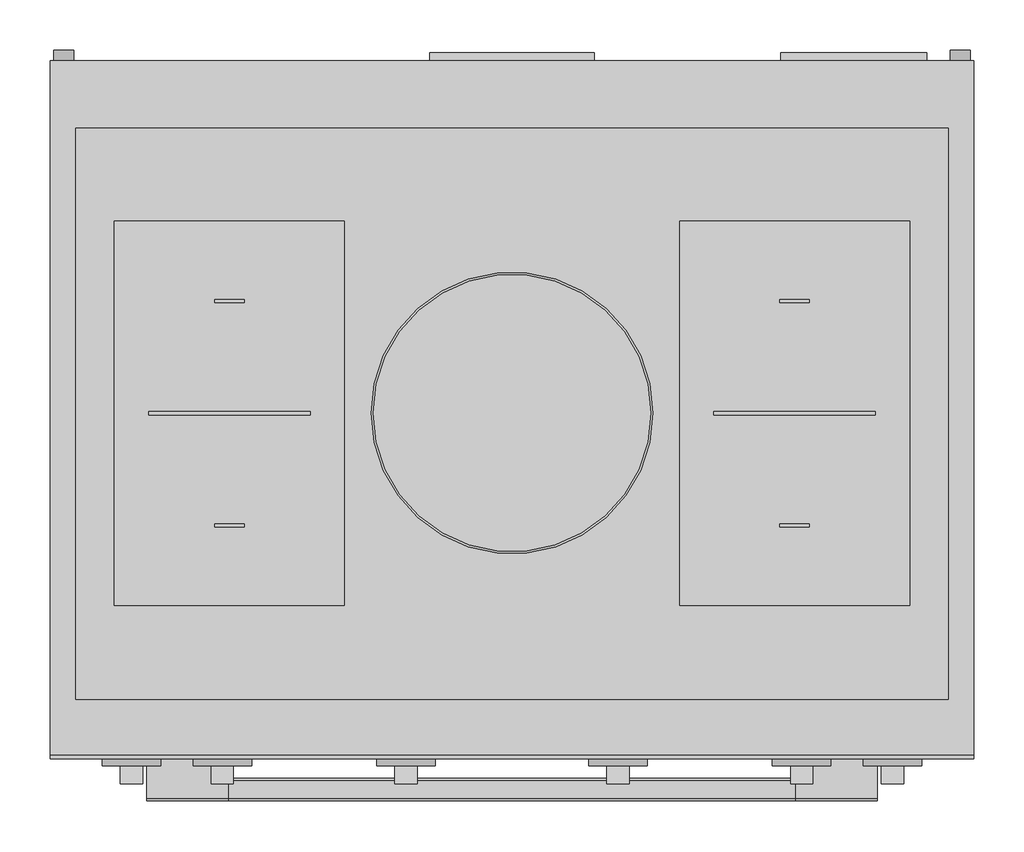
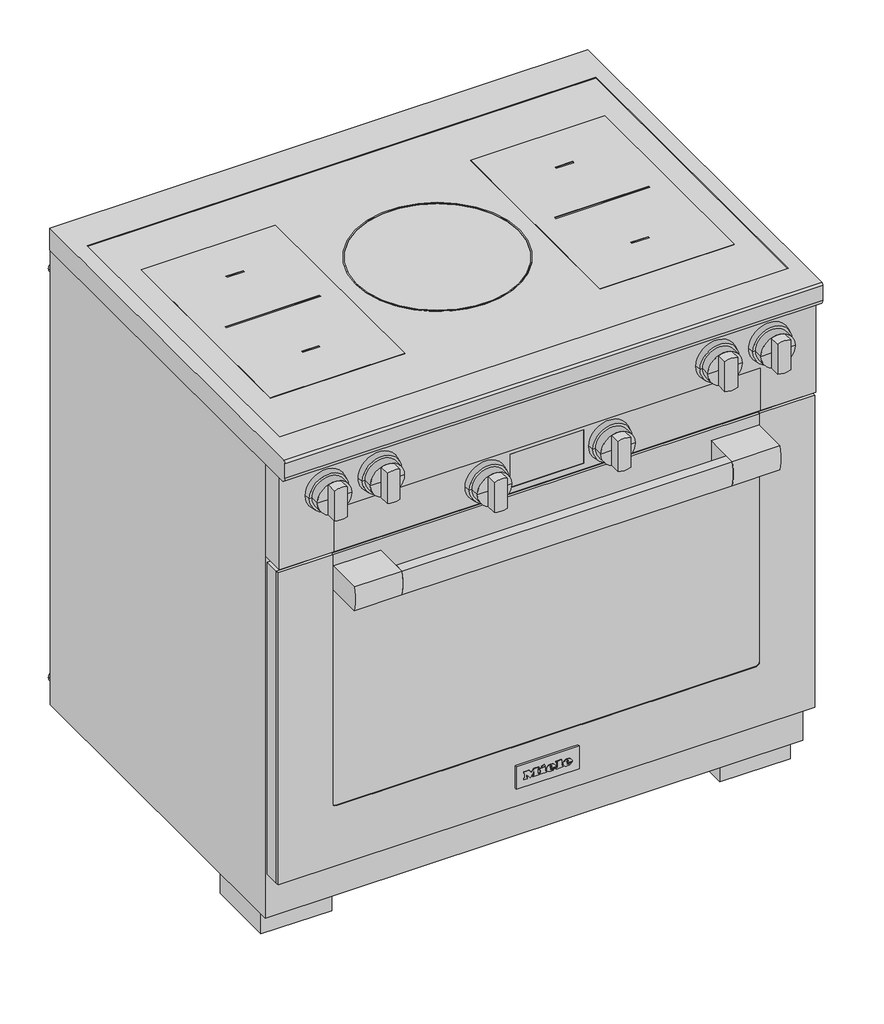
# Not in any storey: 1 proxy.
"""IFC4 building model written with IfcOpenShell, lengths in millimetres."""

from ifc_helpers import new_model, si_unit, origin, place, context, project, spatial, transform, mapped, element, save
from components import specialty_equipment_34f8124d, specialty_equipment_a4b074ec

model = new_model("IFC4")

# Units and contexts
model_context = context("Model", 3, world=origin())
ifc_project = project(units=[si_unit("LENGTHUNIT", "METRE", prefix="MILLI")], contexts=[model_context])

# Site, building
site = spatial("IfcSite", under=ifc_project)
building = spatial("IfcBuilding", under=site)

# Proxy
placement = place(None, origin())
specialty_equipment_shape = specialty_equipment_34f8124d(model_context)
specialty_equipment_2_shape = specialty_equipment_a4b074ec(model_context)
element("IfcBuildingElementProxy", 1, Name="12535250_USA_HR1432-3_EDST-CLST : 25143281_USA_12535250_HR1432-3_EDST-CLST", ObjectType="12535250_USA_HR1432-3_EDST-CLST : 25143281_USA_12535250_HR1432-3_EDST-CLST", at=placement, inside=building, context=model_context, shape_type="MappedRepresentation", body=[
    mapped(specialty_equipment_shape, transform((0.0, 0.0, 0.0), x_axis=(1.0, 0.0, 0.0), y_axis=(0.0, 1.0, 0.0), z_axis=(0.0, 0.0, 1.0))),
    mapped(specialty_equipment_2_shape, transform((0.0, 0.0, 0.0), x_axis=(1.0, 0.0, 0.0), y_axis=(0.0, 1.0, 0.0), z_axis=(0.0, 0.0, 1.0))),
])

save(model, "model.ifc")
